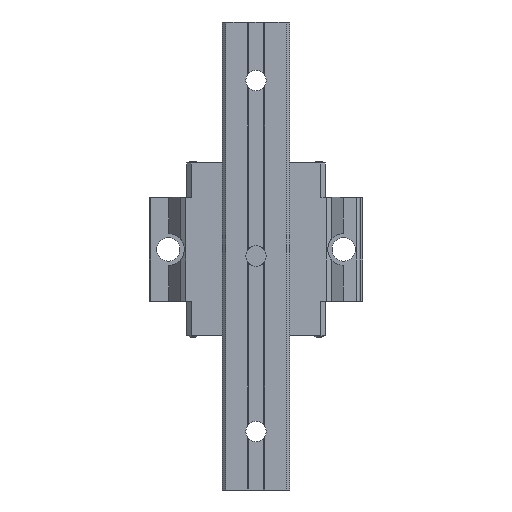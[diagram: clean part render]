
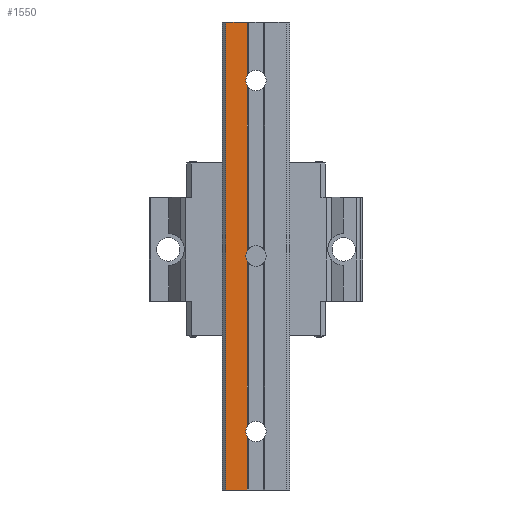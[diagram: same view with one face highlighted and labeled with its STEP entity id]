
A CAD part, front view. The second image highlights one B-rep face of the part: STEP entity #1550.
In plain terms, the highlighted planar face has unit normal (0, -1, 0).
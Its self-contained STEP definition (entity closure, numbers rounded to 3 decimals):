
#1196 = VECTOR ( 'NONE', #10249, 1000. ) ;
#1233 = PLANE ( 'NONE',  #5648 ) ;
#1437 = CARTESIAN_POINT ( 'NONE',  ( -3., -18., -100. ) ) ;
#1550 = ADVANCED_FACE ( 'NONE', ( #6285 ), #1233, .T. ) ;
#1554 = EDGE_LOOP ( 'NONE', ( #5277, #14271, #13627, #12591, #3951, #14534, #15698, #4528, #6443, #8592 ) ) ;
#1587 = DIRECTION ( 'NONE',  ( 0., 0., 1. ) ) ;
#1602 = CARTESIAN_POINT ( 'NONE',  ( -10.3, -18., -100. ) ) ;
#1669 = CARTESIAN_POINT ( 'NONE',  ( -36.5, -18., -100. ) ) ;
#1696 = VECTOR ( 'NONE', #4145, 1000. ) ;
#2172 = CARTESIAN_POINT ( 'NONE',  ( -3., -18., 41.803 ) ) ;
#2372 = CARTESIAN_POINT ( 'NONE',  ( -10.3, -18., -100. ) ) ;
#2871 = CARTESIAN_POINT ( 'NONE',  ( -3., -18., 60. ) ) ;
#2981 = DIRECTION ( 'NONE',  ( 0., 0., 1. ) ) ;
#3444 = EDGE_CURVE ( 'NONE', #8126, #12509, #4167, .T. ) ;
#3751 = LINE ( 'NONE', #6241, #11550 ) ;
#3803 = CIRCLE ( 'NONE', #15731, 3.5 ) ;
#3951 = ORIENTED_EDGE ( 'NONE', *, *, #7056, .T. ) ;
#3982 = CARTESIAN_POINT ( 'NONE',  ( -36.5, -18., 60. ) ) ;
#4145 = DIRECTION ( 'NONE',  ( 1., 0., 0. ) ) ;
#4167 = LINE ( 'NONE', #1669, #10043 ) ;
#4528 = ORIENTED_EDGE ( 'NONE', *, *, #14140, .T. ) ;
#4722 = DIRECTION ( 'NONE',  ( 0., 0., 1. ) ) ;
#4997 = CARTESIAN_POINT ( 'NONE',  ( -3., -18., -100. ) ) ;
#5219 = VECTOR ( 'NONE', #10737, 1000. ) ;
#5277 = ORIENTED_EDGE ( 'NONE', *, *, #13158, .T. ) ;
#5423 = EDGE_CURVE ( 'NONE', #9682, #12652, #13353, .T. ) ;
#5607 = EDGE_CURVE ( 'NONE', #13696, #13651, #7526, .T. ) ;
#5648 = AXIS2_PLACEMENT_3D ( 'NONE', #7939, #12812, #15050 ) ;
#5770 = CARTESIAN_POINT ( 'NONE',  ( -3., -18., -21.803 ) ) ;
#5823 = CIRCLE ( 'NONE', #10649, 3.5 ) ;
#5903 = EDGE_CURVE ( 'NONE', #12509, #11376, #3751, .T. ) ;
#6156 = CARTESIAN_POINT ( 'NONE',  ( -3., -18., -81.803 ) ) ;
#6241 = CARTESIAN_POINT ( 'NONE',  ( -3., -18., -100. ) ) ;
#6250 = VERTEX_POINT ( 'NONE', #6743 ) ;
#6285 = FACE_OUTER_BOUND ( 'NONE', #1554, .T. ) ;
#6443 = ORIENTED_EDGE ( 'NONE', *, *, #5423, .T. ) ;
#6616 = EDGE_CURVE ( 'NONE', #11376, #13524, #13864, .T. ) ;
#6723 = AXIS2_PLACEMENT_3D ( 'NONE', #9139, #12493, #2981 ) ;
#6743 = CARTESIAN_POINT ( 'NONE',  ( -10.3, -18., 60. ) ) ;
#6859 = CARTESIAN_POINT ( 'NONE',  ( -3., -18., -78.197 ) ) ;
#6883 = DIRECTION ( 'NONE',  ( 0., 1., 0. ) ) ;
#7035 = CARTESIAN_POINT ( 'NONE',  ( 0., -18., -20. ) ) ;
#7056 = EDGE_CURVE ( 'NONE', #13524, #14048, #15700, .T. ) ;
#7347 = CARTESIAN_POINT ( 'NONE',  ( -3., -18., -100. ) ) ;
#7526 = LINE ( 'NONE', #1437, #13835 ) ;
#7939 = CARTESIAN_POINT ( 'NONE',  ( -10.3, -18., -100. ) ) ;
#7986 = CARTESIAN_POINT ( 'NONE',  ( -3., -18., -100. ) ) ;
#8126 = VERTEX_POINT ( 'NONE', #2372 ) ;
#8371 = DIRECTION ( 'NONE',  ( 0., 1., 0. ) ) ;
#8592 = ORIENTED_EDGE ( 'NONE', *, *, #12685, .F. ) ;
#8946 = LINE ( 'NONE', #3982, #1696 ) ;
#9139 = CARTESIAN_POINT ( 'NONE',  ( 0., -18., -80. ) ) ;
#9441 = DIRECTION ( 'NONE',  ( 0., 0., 1. ) ) ;
#9682 = VERTEX_POINT ( 'NONE', #2172 ) ;
#10043 = VECTOR ( 'NONE', #15256, 1000. ) ;
#10249 = DIRECTION ( 'NONE',  ( 0., 0., -1. ) ) ;
#10509 = CARTESIAN_POINT ( 'NONE',  ( -3., -18., 38.197 ) ) ;
#10649 = AXIS2_PLACEMENT_3D ( 'NONE', #7035, #6883, #9441 ) ;
#10737 = DIRECTION ( 'NONE',  ( 0., 0., 1. ) ) ;
#11376 = VERTEX_POINT ( 'NONE', #6156 ) ;
#11550 = VECTOR ( 'NONE', #1587, 1000. ) ;
#11595 = LINE ( 'NONE', #1602, #1196 ) ;
#12187 = CARTESIAN_POINT ( 'NONE',  ( 0., -18., 40. ) ) ;
#12425 = EDGE_CURVE ( 'NONE', #14048, #13696, #5823, .T. ) ;
#12476 = DIRECTION ( 'NONE',  ( 0., 0., 1. ) ) ;
#12493 = DIRECTION ( 'NONE',  ( 0., 1., 0. ) ) ;
#12509 = VERTEX_POINT ( 'NONE', #7986 ) ;
#12591 = ORIENTED_EDGE ( 'NONE', *, *, #6616, .T. ) ;
#12652 = VERTEX_POINT ( 'NONE', #2871 ) ;
#12685 = EDGE_CURVE ( 'NONE', #6250, #12652, #8946, .T. ) ;
#12812 = DIRECTION ( 'NONE',  ( 0., -1., 0. ) ) ;
#13158 = EDGE_CURVE ( 'NONE', #6250, #8126, #11595, .T. ) ;
#13335 = DIRECTION ( 'NONE',  ( 0., 0., 1. ) ) ;
#13353 = LINE ( 'NONE', #4997, #5219 ) ;
#13524 = VERTEX_POINT ( 'NONE', #6859 ) ;
#13627 = ORIENTED_EDGE ( 'NONE', *, *, #5903, .T. ) ;
#13651 = VERTEX_POINT ( 'NONE', #10509 ) ;
#13696 = VERTEX_POINT ( 'NONE', #15361 ) ;
#13835 = VECTOR ( 'NONE', #12476, 1000. ) ;
#13864 = CIRCLE ( 'NONE', #6723, 3.5 ) ;
#14048 = VERTEX_POINT ( 'NONE', #5770 ) ;
#14140 = EDGE_CURVE ( 'NONE', #13651, #9682, #3803, .T. ) ;
#14271 = ORIENTED_EDGE ( 'NONE', *, *, #3444, .T. ) ;
#14534 = ORIENTED_EDGE ( 'NONE', *, *, #12425, .T. ) ;
#14580 = VECTOR ( 'NONE', #13335, 1000. ) ;
#15050 = DIRECTION ( 'NONE',  ( 0., 0., -1. ) ) ;
#15256 = DIRECTION ( 'NONE',  ( 1., 0., 0. ) ) ;
#15361 = CARTESIAN_POINT ( 'NONE',  ( -3., -18., -18.197 ) ) ;
#15698 = ORIENTED_EDGE ( 'NONE', *, *, #5607, .T. ) ;
#15700 = LINE ( 'NONE', #7347, #14580 ) ;
#15731 = AXIS2_PLACEMENT_3D ( 'NONE', #12187, #8371, #4722 ) ;
